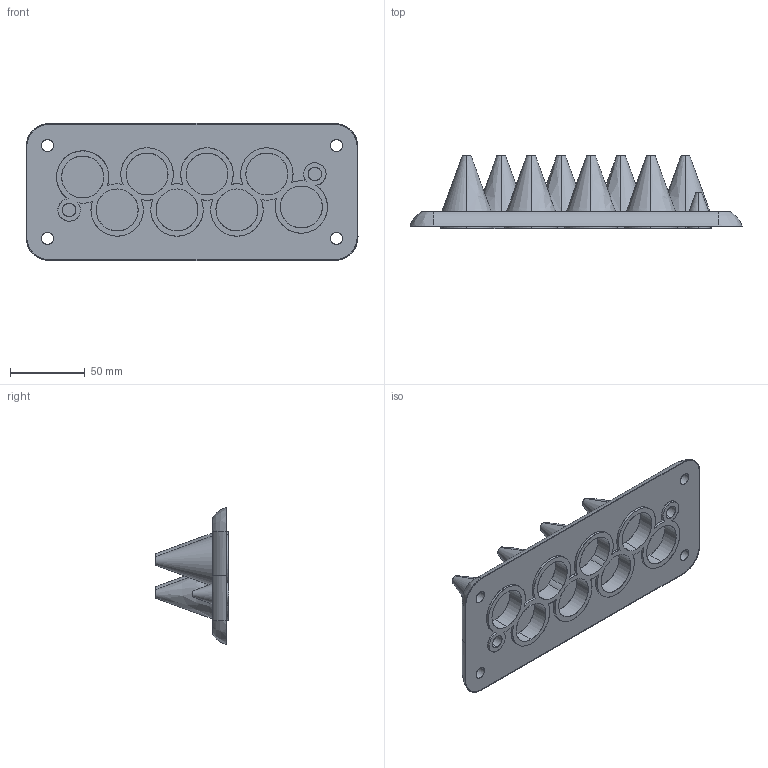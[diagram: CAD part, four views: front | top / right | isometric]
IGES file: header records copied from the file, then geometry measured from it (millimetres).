
Start section: SolidWorks IGES file using analytic representation for surfaces
Global section: file name: C:\Solidworks\omat tuotteet\Space charge models\Multigate\ip54\IGES\103552.IGS; native system: SolidWorks 2012; preprocessor: SolidWorks 2012; author: joni.lehtonen; date: 121211.080822; units: millimetre
Bounding box: 221.72 x 48.76 x 91.72 mm (x, y, z)
Surface area: 66324.2 mm2 (no closed solid volume)
Topology: 0 solids, 0 shells, 132 faces, 3381 edges, 3381 vertices
Faces by surface type: revolution 98, bspline 34
